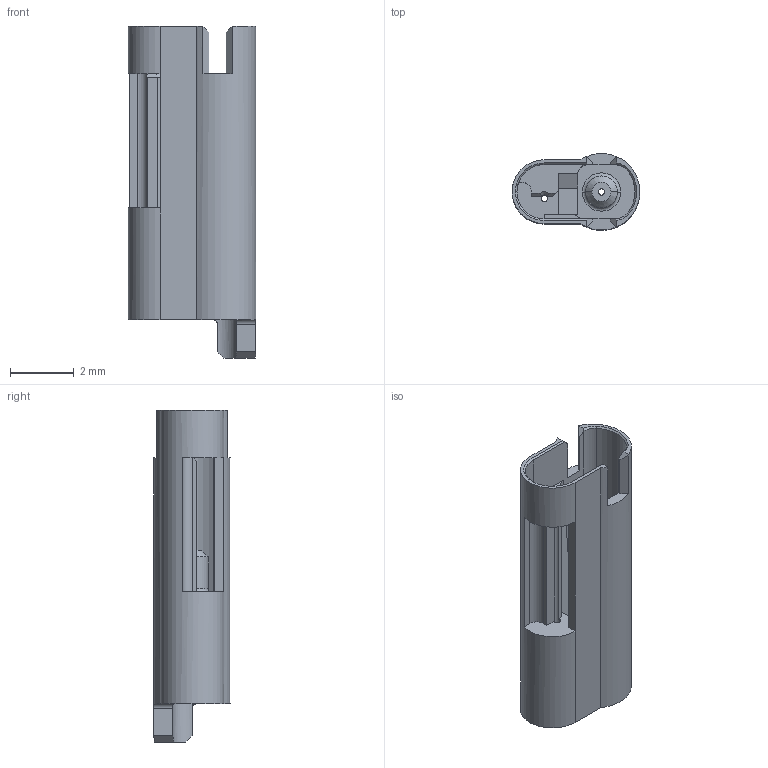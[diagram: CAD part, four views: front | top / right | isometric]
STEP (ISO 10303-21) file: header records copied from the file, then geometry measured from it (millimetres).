
FILE_DESCRIPTION (( 'STEP AP214' ), '1' );
FILE_NAME ('TRL-0044-OFF1-A.STEP', '2021-06-27T15:17:51', ( '' ), ( '' ), 'SwSTEP 2.0', 'SolidWorks 2016', '' );
FILE_SCHEMA (( 'AUTOMOTIVE_DESIGN' ));
Length unit declared in the file: millimetre
Products named in the file (1): TRL-0044-OFF1-A
Bounding box: 4 x 2.4 x 10.4 mm (x, y, z)
Volume: 40.1 mm3; surface area: 179.7 mm2
Topology: 1 solids, 1 shells, 92 faces, 250 edges, 159 vertices
Faces by surface type: plane 52, cylinder 23, cone 12, bspline 3, torus 2
Entity records: 3307 total; most frequent: CARTESIAN_POINT 963, ORIENTED_EDGE 500, DIRECTION 470, EDGE_CURVE 250, VERTEX_POINT 159, VECTOR 158, LINE 158, AXIS2_PLACEMENT_3D 156
